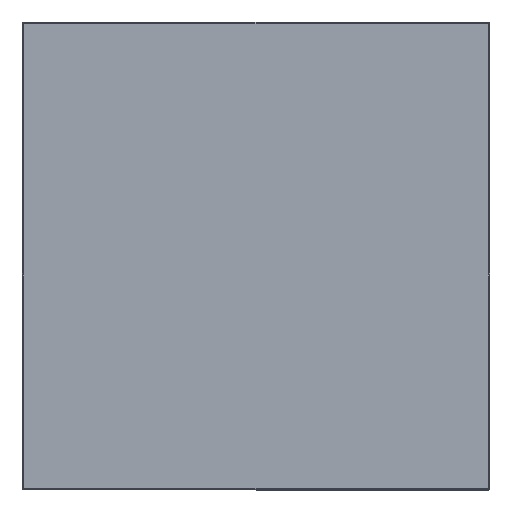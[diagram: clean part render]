
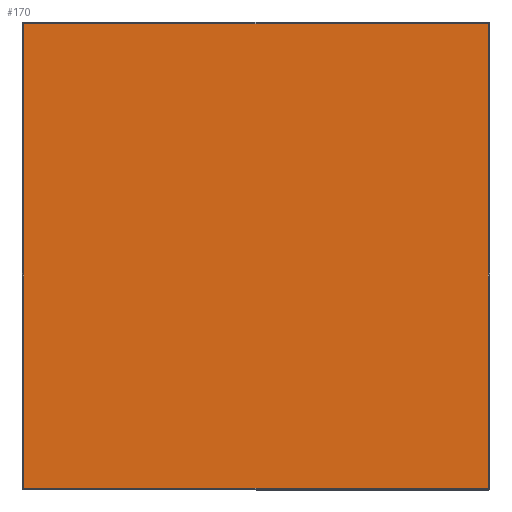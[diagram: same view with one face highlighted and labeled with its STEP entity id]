
A CAD part, top view. The second image highlights one B-rep face of the part: STEP entity #170.
In plain terms, the highlighted planar face has unit normal (0, 0, 1).
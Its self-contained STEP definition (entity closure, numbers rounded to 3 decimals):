
#170=ADVANCED_FACE('',(#360),#2538,.T.);
#360=FACE_OUTER_BOUND('',#550,.T.);
#550=EDGE_LOOP('',(#1188,#1189,#1190,#1191));
#1188=ORIENTED_EDGE('',*,*,#1679,.F.);
#1189=ORIENTED_EDGE('',*,*,#1677,.F.);
#1190=ORIENTED_EDGE('',*,*,#1678,.F.);
#1191=ORIENTED_EDGE('',*,*,#1676,.F.);
#1676=EDGE_CURVE('',#2332,#2333,#2140,.T.);
#1677=EDGE_CURVE('',#2334,#2335,#2141,.T.);
#1678=EDGE_CURVE('',#2333,#2334,#2142,.T.);
#1679=EDGE_CURVE('',#2335,#2332,#2143,.T.);
#2140=B_SPLINE_CURVE_WITH_KNOTS('',1,(#5167,#5168),.UNSPECIFIED.,.F.,.F.,
(2,2),(1.5,428.5),.UNSPECIFIED.);
#2141=B_SPLINE_CURVE_WITH_KNOTS('',1,(#5169,#5170),.UNSPECIFIED.,.F.,.F.,
(2,2),(1.5,428.5),.UNSPECIFIED.);
#2142=B_SPLINE_CURVE_WITH_KNOTS('',1,(#5171,#5172),.UNSPECIFIED.,.F.,.F.,
(2,2),(1.5,428.5),.UNSPECIFIED.);
#2143=B_SPLINE_CURVE_WITH_KNOTS('',1,(#5173,#5174),.UNSPECIFIED.,.F.,.F.,
(2,2),(1.5,428.5),.UNSPECIFIED.);
#2332=VERTEX_POINT('',#5127);
#2333=VERTEX_POINT('',#5128);
#2334=VERTEX_POINT('',#5129);
#2335=VERTEX_POINT('',#5130);
#2538=PLANE('',#2602);
#2602=AXIS2_PLACEMENT_3D('',#4907,#2650,$);
#2650=DIRECTION('',(0.,0.,1.));
#4907=CARTESIAN_POINT('',(430.,0.,430.));
#5127=CARTESIAN_POINT('',(428.5,1.5,430.));
#5128=CARTESIAN_POINT('',(1.5,1.5,430.));
#5129=CARTESIAN_POINT('',(1.5,428.5,430.));
#5130=CARTESIAN_POINT('',(428.5,428.5,430.));
#5167=CARTESIAN_POINT('',(428.5,1.5,430.));
#5168=CARTESIAN_POINT('',(1.5,1.5,430.));
#5169=CARTESIAN_POINT('',(1.5,428.5,430.));
#5170=CARTESIAN_POINT('',(428.5,428.5,430.));
#5171=CARTESIAN_POINT('',(1.5,1.5,430.));
#5172=CARTESIAN_POINT('',(1.5,428.5,430.));
#5173=CARTESIAN_POINT('',(428.5,428.5,430.));
#5174=CARTESIAN_POINT('',(428.5,1.5,430.));
